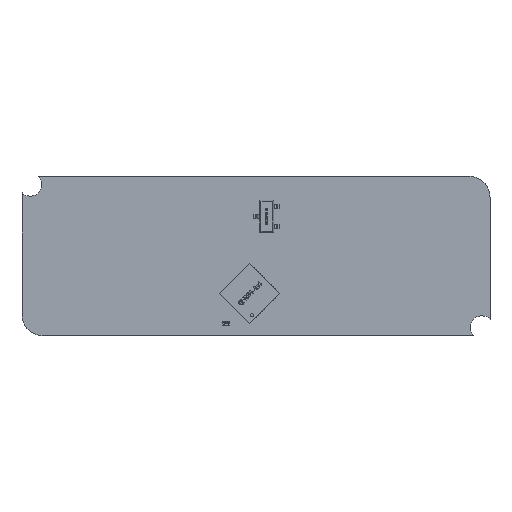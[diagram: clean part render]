
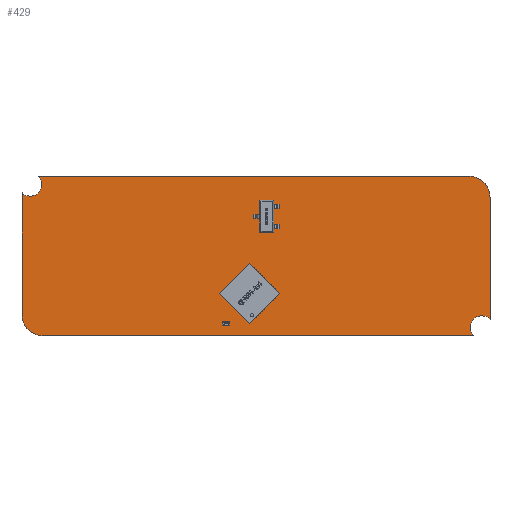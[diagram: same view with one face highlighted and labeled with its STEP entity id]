
A CAD part, top view. The second image highlights one B-rep face of the part: STEP entity #429.
In plain terms, the highlighted planar face has unit normal (0, 0, 1).
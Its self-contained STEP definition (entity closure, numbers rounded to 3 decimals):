
#164 = VERTEX_POINT('',#165);
#165 = CARTESIAN_POINT('',(-12.4,-0.652,1.3));
#171 = EDGE_CURVE('',#164,#172,#174,.T.);
#172 = VERTEX_POINT('',#173);
#173 = CARTESIAN_POINT('',(-12.4,10.792,1.3));
#174 = LINE('',#175,#176);
#175 = CARTESIAN_POINT('',(-12.4,-0.652,1.3));
#176 = VECTOR('',#177,1.);
#177 = DIRECTION('',(0.,1.,0.));
#202 = EDGE_CURVE('',#172,#203,#205,.T.);
#203 = VERTEX_POINT('',#204);
#204 = CARTESIAN_POINT('',(-10.844,12.348,1.3));
#205 = CIRCLE('',#206,1.1);
#206 = AXIS2_PLACEMENT_3D('',#207,#208,#209);
#207 = CARTESIAN_POINT('',(-11.622,11.57,1.3));
#208 = DIRECTION('',(0.,0.,1.));
#209 = DIRECTION('',(-0.707,-0.707,0.));
#235 = EDGE_CURVE('',#203,#236,#238,.T.);
#236 = VERTEX_POINT('',#237);
#237 = CARTESIAN_POINT('',(29.6,12.348,1.3));
#238 = LINE('',#239,#240);
#239 = CARTESIAN_POINT('',(-10.844,12.348,1.3));
#240 = VECTOR('',#241,1.);
#241 = DIRECTION('',(1.,0.,0.));
#266 = EDGE_CURVE('',#236,#267,#269,.T.);
#267 = VERTEX_POINT('',#268);
#268 = CARTESIAN_POINT('',(31.6,10.348,1.3));
#269 = CIRCLE('',#270,2.001);
#270 = AXIS2_PLACEMENT_3D('',#271,#272,#273);
#271 = CARTESIAN_POINT('',(29.599,10.347,1.3));
#272 = DIRECTION('',(0.,0.,-1.));
#273 = DIRECTION('',(0.,1.,0.));
#299 = EDGE_CURVE('',#267,#300,#302,.T.);
#300 = VERTEX_POINT('',#301);
#301 = CARTESIAN_POINT('',(31.6,-1.097,1.3));
#302 = LINE('',#303,#304);
#303 = CARTESIAN_POINT('',(31.6,10.348,1.3));
#304 = VECTOR('',#305,1.);
#305 = DIRECTION('',(0.,-1.,0.));
#330 = EDGE_CURVE('',#300,#331,#333,.T.);
#331 = VERTEX_POINT('',#332);
#332 = CARTESIAN_POINT('',(30.044,-2.652,1.3));
#333 = CIRCLE('',#334,1.1);
#334 = AXIS2_PLACEMENT_3D('',#335,#336,#337);
#335 = CARTESIAN_POINT('',(30.822,-1.874,1.3));
#336 = DIRECTION('',(0.,0.,1.));
#337 = DIRECTION('',(0.707,0.707,0.));
#363 = EDGE_CURVE('',#331,#364,#366,.T.);
#364 = VERTEX_POINT('',#365);
#365 = CARTESIAN_POINT('',(-10.4,-2.652,1.3));
#366 = LINE('',#367,#368);
#367 = CARTESIAN_POINT('',(30.044,-2.652,1.3));
#368 = VECTOR('',#369,1.);
#369 = DIRECTION('',(-1.,0.,0.));
#394 = EDGE_CURVE('',#364,#164,#395,.T.);
#395 = CIRCLE('',#396,1.999);
#396 = AXIS2_PLACEMENT_3D('',#397,#398,#399);
#397 = CARTESIAN_POINT('',(-10.401,-0.653,1.3));
#398 = DIRECTION('',(0.,0.,-1.));
#399 = DIRECTION('',(0.,-1.,0.));
#429 = ADVANCED_FACE('',(#430),#440,.T.);
#430 = FACE_BOUND('',#431,.F.);
#431 = EDGE_LOOP('',(#432,#433,#434,#435,#436,#437,#438,#439));
#432 = ORIENTED_EDGE('',*,*,#171,.T.);
#433 = ORIENTED_EDGE('',*,*,#202,.T.);
#434 = ORIENTED_EDGE('',*,*,#235,.T.);
#435 = ORIENTED_EDGE('',*,*,#266,.T.);
#436 = ORIENTED_EDGE('',*,*,#299,.T.);
#437 = ORIENTED_EDGE('',*,*,#330,.T.);
#438 = ORIENTED_EDGE('',*,*,#363,.T.);
#439 = ORIENTED_EDGE('',*,*,#394,.T.);
#440 = PLANE('',#441);
#441 = AXIS2_PLACEMENT_3D('',#442,#443,#444);
#442 = CARTESIAN_POINT('',(-12.4,-0.652,1.3));
#443 = DIRECTION('',(0.,0.,1.));
#444 = DIRECTION('',(1.,0.,0.));
